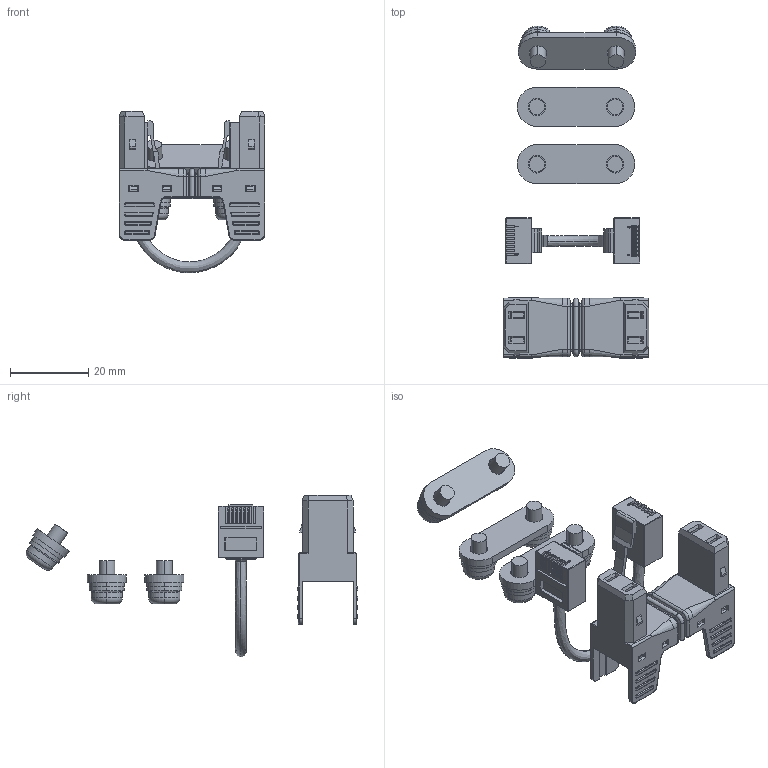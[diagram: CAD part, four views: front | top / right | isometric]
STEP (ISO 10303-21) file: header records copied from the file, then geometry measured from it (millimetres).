
FILE_DESCRIPTION((''),'2;1');
FILE_NAME('9500-1047_MULTI_AXIS_STD-KIT-ET','2026-05-21T13:37:44',('owenrh01'),(''),'CREO PARAMETRIC BY PTC INC, 2023154','CREO PARAMETRIC BY PTC INC, 2023154','');
FILE_SCHEMA(('AP242_MANAGED_MODEL_BASED_3D_ENGINEERING_MIM_LF { 1 0 10303 442 1 1 4 }'));
Products named in the file (1): 9500-1047_MULTI_AXIS_STD-KIT-ET
Bounding box: 37.3 x 84.85 x 41.38 mm (x, y, z)
Volume: 9297.1 mm3; surface area: 16309.7 mm2
Topology: 12 solids, 12 shells, 1631 faces, 4243 edges, 2619 vertices
Faces by surface type: plane 822, cylinder 529, sphere 79, extrusion 67, torus 66, cone 50, bspline 18
Entity records: 63888 total; most frequent: CARTESIAN_POINT 12219, ORIENTED_EDGE 8328, DIRECTION 8299, EDGE_CURVE 4164, VECTOR 2799, AXIS2_PLACEMENT_3D 2750, LINE 2732, VERTEX_POINT 2619
